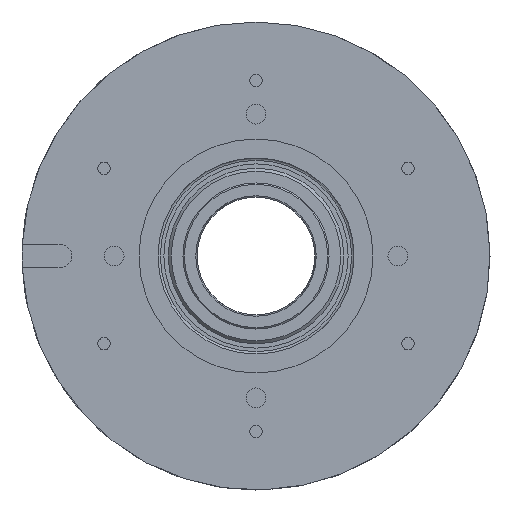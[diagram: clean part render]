
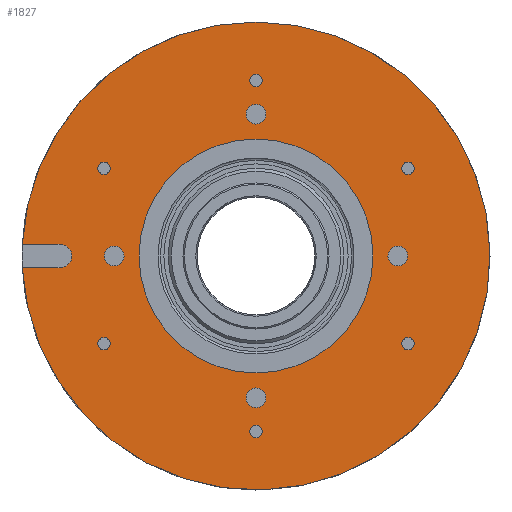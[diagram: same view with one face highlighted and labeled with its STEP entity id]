
A CAD part, left-side view. The second image highlights one B-rep face of the part: STEP entity #1827.
In plain terms, the highlighted planar face has unit normal (-1, 0, 0).
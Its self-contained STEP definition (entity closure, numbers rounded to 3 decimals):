
#17 = EDGE_CURVE ( 'NONE', #1037, #66, #204, .T. ) ;
#21 = DIRECTION ( 'NONE',  ( -1., 0., 0. ) ) ;
#38 = CARTESIAN_POINT ( 'NONE',  ( 0.17, 80., 0. ) ) ;
#40 = CARTESIAN_POINT ( 'NONE',  ( 0.17, -51.962, -30. ) ) ;
#48 = FACE_BOUND ( 'NONE', #1820, .T. ) ;
#49 = ORIENTED_EDGE ( 'NONE', *, *, #1839, .F. ) ;
#51 = DIRECTION ( 'NONE',  ( 0., 0., 1. ) ) ;
#52 = DIRECTION ( 'NONE',  ( -1., 0., 0. ) ) ;
#63 = AXIS2_PLACEMENT_3D ( 'NONE', #40, #242, #230 ) ;
#66 = VERTEX_POINT ( 'NONE', #543 ) ;
#67 = AXIS2_PLACEMENT_3D ( 'NONE', #83, #52, #712 ) ;
#79 = ORIENTED_EDGE ( 'NONE', *, *, #616, .F. ) ;
#81 = CARTESIAN_POINT ( 'NONE',  ( 0.17, 67., 4. ) ) ;
#83 = CARTESIAN_POINT ( 'NONE',  ( 0.17, 67., 0. ) ) ;
#108 = EDGE_CURVE ( 'NONE', #1037, #334, #608, .T. ) ;
#112 = ORIENTED_EDGE ( 'NONE', *, *, #108, .F. ) ;
#116 = AXIS2_PLACEMENT_3D ( 'NONE', #1998, #720, #51 ) ;
#129 = CARTESIAN_POINT ( 'NONE',  ( 0.17, -48.5, 0. ) ) ;
#154 = CARTESIAN_POINT ( 'NONE',  ( 0.17, -51.962, -27.9 ) ) ;
#159 = DIRECTION ( 'NONE',  ( 0., 0., 1. ) ) ;
#166 = DIRECTION ( 'NONE',  ( 0., 0., 1. ) ) ;
#180 = DIRECTION ( 'NONE',  ( 0., 0., 1. ) ) ;
#193 = DIRECTION ( 'NONE',  ( -1., 0., 0. ) ) ;
#204 = LINE ( 'NONE', #948, #1819 ) ;
#226 = EDGE_LOOP ( 'NONE', ( #1269 ) ) ;
#230 = DIRECTION ( 'NONE',  ( 0., 0., 1. ) ) ;
#237 = EDGE_CURVE ( 'NONE', #1312, #1312, #1174, .T. ) ;
#242 = DIRECTION ( 'NONE',  ( -1., 0., 0. ) ) ;
#251 = EDGE_CURVE ( 'NONE', #1624, #1624, #744, .T. ) ;
#256 = EDGE_LOOP ( 'NONE', ( #1040 ) ) ;
#299 = EDGE_CURVE ( 'NONE', #1786, #1786, #1717, .T. ) ;
#322 = CARTESIAN_POINT ( 'NONE',  ( 0.17, 51.962, -27.9 ) ) ;
#328 = EDGE_CURVE ( 'NONE', #483, #483, #2126, .T. ) ;
#334 = VERTEX_POINT ( 'NONE', #81 ) ;
#358 = FACE_BOUND ( 'NONE', #1962, .T. ) ;
#371 = DIRECTION ( 'NONE',  ( -1., 0., 0. ) ) ;
#376 = ORIENTED_EDGE ( 'NONE', *, *, #299, .F. ) ;
#378 = DIRECTION ( 'NONE',  ( -1., 0., 0. ) ) ;
#394 = CARTESIAN_POINT ( 'NONE',  ( 0.17, 0., 0. ) ) ;
#396 = CARTESIAN_POINT ( 'NONE',  ( 0.17, -51.962, 32.1 ) ) ;
#410 = ORIENTED_EDGE ( 'NONE', *, *, #1974, .F. ) ;
#421 = DIRECTION ( 'NONE',  ( 0., 1., 0. ) ) ;
#437 = CIRCLE ( 'NONE', #1197, 40. ) ;
#477 = ORIENTED_EDGE ( 'NONE', *, *, #328, .F. ) ;
#483 = VERTEX_POINT ( 'NONE', #794 ) ;
#499 = FACE_BOUND ( 'NONE', #578, .T. ) ;
#516 = FACE_BOUND ( 'NONE', #1198, .T. ) ;
#517 = EDGE_LOOP ( 'NONE', ( #865 ) ) ;
#526 = FACE_BOUND ( 'NONE', #517, .T. ) ;
#528 = DIRECTION ( 'NONE',  ( -1., 0., 0. ) ) ;
#537 = PLANE ( 'NONE',  #1523 ) ;
#539 = ORIENTED_EDGE ( 'NONE', *, *, #1658, .F. ) ;
#540 = CARTESIAN_POINT ( 'NONE',  ( 0.17, 0., -60. ) ) ;
#543 = CARTESIAN_POINT ( 'NONE',  ( 0.17, 79.9, -4. ) ) ;
#558 = CIRCLE ( 'NONE', #1694, 3.4 ) ;
#575 = DIRECTION ( 'NONE',  ( 0., 0., 1. ) ) ;
#578 = EDGE_LOOP ( 'NONE', ( #376 ) ) ;
#608 = CIRCLE ( 'NONE', #67, 4. ) ;
#616 = EDGE_CURVE ( 'NONE', #1808, #1808, #1332, .T. ) ;
#633 = CARTESIAN_POINT ( 'NONE',  ( 0.17, 0., 51.9 ) ) ;
#644 = EDGE_CURVE ( 'NONE', #1484, #1484, #2091, .T. ) ;
#663 = VECTOR ( 'NONE', #421, 1000. ) ;
#676 = AXIS2_PLACEMENT_3D ( 'NONE', #976, #1630, #159 ) ;
#681 = DIRECTION ( 'NONE',  ( 0., 0., 1. ) ) ;
#683 = ORIENTED_EDGE ( 'NONE', *, *, #1342, .T. ) ;
#688 = DIRECTION ( 'NONE',  ( 0., 0., -1. ) ) ;
#702 = CARTESIAN_POINT ( 'NONE',  ( 0.17, 0., 40. ) ) ;
#712 = DIRECTION ( 'NONE',  ( 0., 0., 1. ) ) ;
#719 = DIRECTION ( 'NONE',  ( 0., 0., 1. ) ) ;
#720 = DIRECTION ( 'NONE',  ( -1., 0., 0. ) ) ;
#744 = CIRCLE ( 'NONE', #1099, 2.1 ) ;
#746 = EDGE_LOOP ( 'NONE', ( #984 ) ) ;
#794 = CARTESIAN_POINT ( 'NONE',  ( 0.17, 0., -45.1 ) ) ;
#816 = CARTESIAN_POINT ( 'NONE',  ( 0.17, 0., -57.9 ) ) ;
#820 = DIRECTION ( 'NONE',  ( 0., 0., 1. ) ) ;
#834 = DIRECTION ( 'NONE',  ( -1., 0., 0. ) ) ;
#864 = FACE_BOUND ( 'NONE', #226, .T. ) ;
#865 = ORIENTED_EDGE ( 'NONE', *, *, #1564, .F. ) ;
#894 = ORIENTED_EDGE ( 'NONE', *, *, #237, .F. ) ;
#924 = DIRECTION ( 'NONE',  ( -1., 0., 0. ) ) ;
#925 = CARTESIAN_POINT ( 'NONE',  ( 0.17, -51.962, 30. ) ) ;
#948 = CARTESIAN_POINT ( 'NONE',  ( 0.17, 80., -4. ) ) ;
#964 = CARTESIAN_POINT ( 'NONE',  ( 0.17, 0., 48.5 ) ) ;
#970 = CARTESIAN_POINT ( 'NONE',  ( 0.17, 0., 60. ) ) ;
#976 = CARTESIAN_POINT ( 'NONE',  ( 0.17, 51.962, 30. ) ) ;
#984 = ORIENTED_EDGE ( 'NONE', *, *, #644, .F. ) ;
#998 = FACE_BOUND ( 'NONE', #256, .T. ) ;
#1005 = CARTESIAN_POINT ( 'NONE',  ( 0.17, 51.962, 32.1 ) ) ;
#1013 = VERTEX_POINT ( 'NONE', #2022 ) ;
#1020 = EDGE_LOOP ( 'NONE', ( #683, #410, #112, #1363 ) ) ;
#1024 = VERTEX_POINT ( 'NONE', #1676 ) ;
#1030 = VERTEX_POINT ( 'NONE', #2085 ) ;
#1037 = VERTEX_POINT ( 'NONE', #1925 ) ;
#1040 = ORIENTED_EDGE ( 'NONE', *, *, #1277, .F. ) ;
#1055 = EDGE_CURVE ( 'NONE', #1013, #1013, #1948, .T. ) ;
#1060 = EDGE_LOOP ( 'NONE', ( #49 ) ) ;
#1077 = AXIS2_PLACEMENT_3D ( 'NONE', #970, #21, #166 ) ;
#1097 = AXIS2_PLACEMENT_3D ( 'NONE', #964, #1617, #820 ) ;
#1099 = AXIS2_PLACEMENT_3D ( 'NONE', #540, #528, #719 ) ;
#1152 = CIRCLE ( 'NONE', #116, 80. ) ;
#1173 = FACE_BOUND ( 'NONE', #1060, .T. ) ;
#1174 = CIRCLE ( 'NONE', #1888, 2.1 ) ;
#1190 = FACE_BOUND ( 'NONE', #1834, .T. ) ;
#1197 = AXIS2_PLACEMENT_3D ( 'NONE', #394, #193, #681 ) ;
#1198 = EDGE_LOOP ( 'NONE', ( #79 ) ) ;
#1214 = CIRCLE ( 'NONE', #1077, 2.1 ) ;
#1215 = VERTEX_POINT ( 'NONE', #702 ) ;
#1269 = ORIENTED_EDGE ( 'NONE', *, *, #251, .F. ) ;
#1277 = EDGE_CURVE ( 'NONE', #1215, #1215, #437, .T. ) ;
#1279 = DIRECTION ( 'NONE',  ( -1., 0., 0. ) ) ;
#1312 = VERTEX_POINT ( 'NONE', #322 ) ;
#1318 = AXIS2_PLACEMENT_3D ( 'NONE', #925, #1279, #1787 ) ;
#1332 = CIRCLE ( 'NONE', #1097, 3.4 ) ;
#1342 = EDGE_CURVE ( 'NONE', #66, #1030, #1152, .T. ) ;
#1347 = ORIENTED_EDGE ( 'NONE', *, *, #1055, .F. ) ;
#1348 = DIRECTION ( 'NONE',  ( 0., 0., 1. ) ) ;
#1363 = ORIENTED_EDGE ( 'NONE', *, *, #17, .T. ) ;
#1426 = VERTEX_POINT ( 'NONE', #1924 ) ;
#1484 = VERTEX_POINT ( 'NONE', #1005 ) ;
#1516 = VERTEX_POINT ( 'NONE', #396 ) ;
#1520 = FACE_OUTER_BOUND ( 'NONE', #1020, .T. ) ;
#1523 = AXIS2_PLACEMENT_3D ( 'NONE', #38, #1651, #688 ) ;
#1564 = EDGE_CURVE ( 'NONE', #1516, #1516, #1728, .T. ) ;
#1617 = DIRECTION ( 'NONE',  ( -1., 0., 0. ) ) ;
#1621 = CARTESIAN_POINT ( 'NONE',  ( 0.17, 51.962, -30. ) ) ;
#1624 = VERTEX_POINT ( 'NONE', #816 ) ;
#1630 = DIRECTION ( 'NONE',  ( -1., 0., 0. ) ) ;
#1651 = DIRECTION ( 'NONE',  ( 1., 0., 0. ) ) ;
#1658 = EDGE_CURVE ( 'NONE', #1024, #1024, #1214, .T. ) ;
#1676 = CARTESIAN_POINT ( 'NONE',  ( 0.17, 0., 62.1 ) ) ;
#1693 = DIRECTION ( 'NONE',  ( 0., 0., 1. ) ) ;
#1694 = AXIS2_PLACEMENT_3D ( 'NONE', #1853, #378, #180 ) ;
#1701 = LINE ( 'NONE', #1713, #663 ) ;
#1713 = CARTESIAN_POINT ( 'NONE',  ( 0.17, 87., 4. ) ) ;
#1717 = CIRCLE ( 'NONE', #63, 2.1 ) ;
#1728 = CIRCLE ( 'NONE', #1318, 2.1 ) ;
#1741 = AXIS2_PLACEMENT_3D ( 'NONE', #129, #924, #575 ) ;
#1786 = VERTEX_POINT ( 'NONE', #154 ) ;
#1787 = DIRECTION ( 'NONE',  ( 0., 0., 1. ) ) ;
#1808 = VERTEX_POINT ( 'NONE', #633 ) ;
#1819 = VECTOR ( 'NONE', #1837, 1000. ) ;
#1820 = EDGE_LOOP ( 'NONE', ( #539 ) ) ;
#1827 = ADVANCED_FACE ( 'NONE', ( #2006, #1843, #864, #499, #526, #48, #358, #1190, #516, #1173, #998, #1520 ), #537, .F. ) ;
#1834 = EDGE_LOOP ( 'NONE', ( #1347 ) ) ;
#1837 = DIRECTION ( 'NONE',  ( 0., 1., 0. ) ) ;
#1839 = EDGE_CURVE ( 'NONE', #1426, #1426, #558, .T. ) ;
#1843 = FACE_BOUND ( 'NONE', #1907, .T. ) ;
#1845 = CARTESIAN_POINT ( 'NONE',  ( 0.17, 0., -48.5 ) ) ;
#1850 = AXIS2_PLACEMENT_3D ( 'NONE', #1845, #371, #1693 ) ;
#1853 = CARTESIAN_POINT ( 'NONE',  ( 0.17, 48.5, 0. ) ) ;
#1888 = AXIS2_PLACEMENT_3D ( 'NONE', #1621, #834, #1348 ) ;
#1907 = EDGE_LOOP ( 'NONE', ( #894 ) ) ;
#1924 = CARTESIAN_POINT ( 'NONE',  ( 0.17, 48.5, 3.4 ) ) ;
#1925 = CARTESIAN_POINT ( 'NONE',  ( 0.17, 67., -4. ) ) ;
#1948 = CIRCLE ( 'NONE', #1741, 3.4 ) ;
#1962 = EDGE_LOOP ( 'NONE', ( #477 ) ) ;
#1974 = EDGE_CURVE ( 'NONE', #334, #1030, #1701, .T. ) ;
#1998 = CARTESIAN_POINT ( 'NONE',  ( 0.17, 0., 0. ) ) ;
#2006 = FACE_BOUND ( 'NONE', #746, .T. ) ;
#2022 = CARTESIAN_POINT ( 'NONE',  ( 0.17, -48.5, 3.4 ) ) ;
#2085 = CARTESIAN_POINT ( 'NONE',  ( 0.17, 79.9, 4. ) ) ;
#2091 = CIRCLE ( 'NONE', #676, 2.1 ) ;
#2126 = CIRCLE ( 'NONE', #1850, 3.4 ) ;
